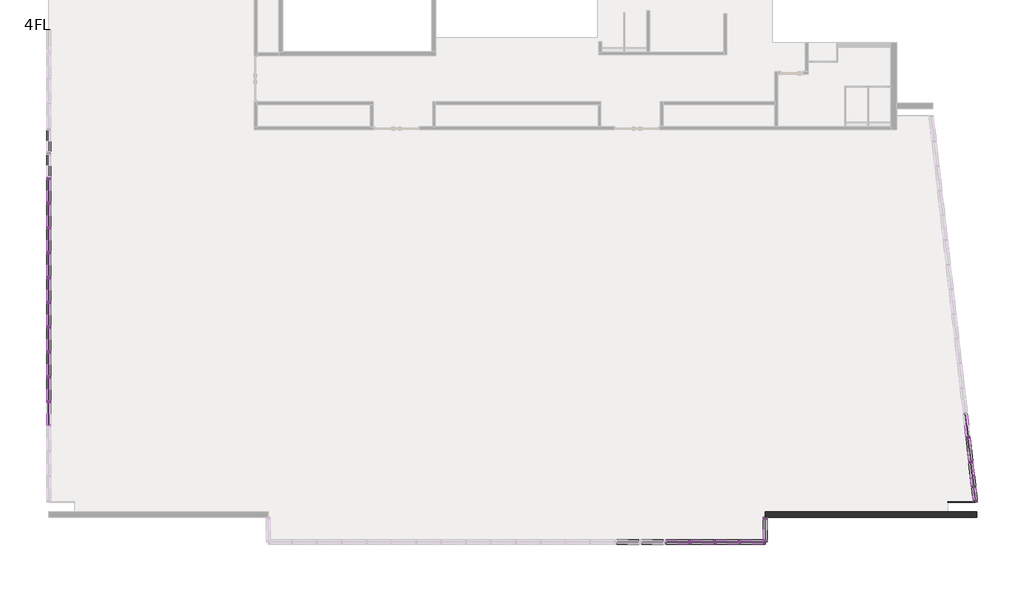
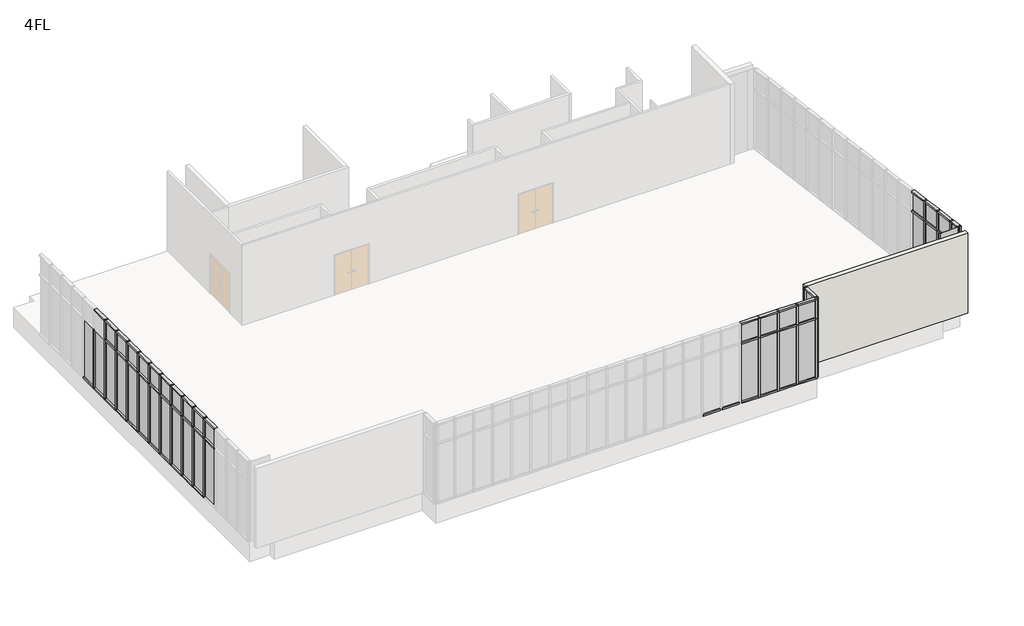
# One storey, part 2 of 4: 101 members, 42 plates, 1 wall.
"""IFC4 building model written with IfcOpenShell, lengths in millimetres."""

from ifc_helpers import new_model, si_unit, frame, origin, place, context, project, spatial, polyline, outline, extrude, transform, mapped, element, save
from components import member_70x150_cdd4dcf9, member_70x150_9a135ce4, member_70x150_66cf63de, member_70x150_26475b18, member_70x150_ad4265bc, member_70x150_e0eddb57, member_70x150_1b280ac3, member_70x150_76429c73, member_70x150_98b0aed0, member_70x150_87b27eb4, plate_d1366ea1, plate_5a60b334, plate_28587fd3, plate_4b01b467, plate_396bcf3c, plate_83f08a3e, plate_de90d239, plate_46ceffe4

model = new_model("IFC4")

# Units and contexts
model_context = context("Model", 3, world=origin())
ifc_project = project(units=[si_unit("LENGTHUNIT", "METRE", prefix="MILLI")], contexts=[model_context])

# Site, building, storey
site = spatial("IfcSite", under=ifc_project)
building = spatial("IfcBuilding", under=site)
storey = spatial("IfcBuildingStorey", under=building, Name="4FL", Elevation=12600.0)

# Members
placement = place(None, origin())
member_70x150_shape = member_70x150_cdd4dcf9(model_context)
element("IfcMember", 1, ObjectType="長方形のマリオン : 70x150", at=placement, inside=storey, context=model_context, shape_type="MappedRepresentation", body=[
    mapped(member_70x150_shape, transform((-5230.9784025, -4550.3131013, 12600.0), x_axis=(-1.0, 0.0, 0.0), y_axis=(0.0, 1.0, 0.0), z_axis=(0.0, 0.0, -1.0))),
])
element("IfcMember", 2, ObjectType="長方形のマリオン : 70x150", at=placement, inside=storey, context=model_context, shape_type="MappedRepresentation", body=[
    mapped(member_70x150_shape, transform((-4330.9784025, -4550.3131013, 12600.0), x_axis=(-1.0, 0.0, 0.0), y_axis=(0.0, 1.0, 0.0), z_axis=(0.0, 0.0, -1.0))),
])
element("IfcMember", 3, ObjectType="長方形のマリオン : 70x150", at=placement, inside=storey, context=model_context, shape_type="MappedRepresentation", body=[
    mapped(member_70x150_shape, transform((-6130.9784025, -4550.3131013, 12600.0), x_axis=(-1.0, 0.0, 0.0), y_axis=(0.0, 1.0, 0.0), z_axis=(0.0, 0.0, -1.0))),
])
element("IfcMember", 4, ObjectType="長方形のマリオン : 70x150", at=placement, inside=storey, context=model_context, shape_type="MappedRepresentation", body=[
    mapped(member_70x150_shape, transform((4147.3841348, -2547.7778257, 12600.0), x_axis=(0.11354659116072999, -0.9935326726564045, 0.0), y_axis=(-0.9935326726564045, -0.11354659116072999, 0.0), z_axis=(0.0, 0.0, -1.0))),
])
element("IfcMember", 5, ObjectType="長方形のマリオン : 70x150", at=placement, inside=storey, context=model_context, shape_type="MappedRepresentation", body=[
    mapped(member_70x150_shape, transform((4045.1922027, -1653.5984203, 12600.0), x_axis=(0.11354659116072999, -0.9935326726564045, 0.0), y_axis=(-0.9935326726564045, -0.11354659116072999, 0.0), z_axis=(0.0, 0.0, -1.0))),
])
element("IfcMember", 6, ObjectType="長方形のマリオン : 70x150", at=placement, inside=storey, context=model_context, shape_type="MappedRepresentation", body=[
    mapped(member_70x150_shape, transform((3943.0002707, -759.4190149, 12600.0), x_axis=(0.11354659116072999, -0.9935326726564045, 0.0), y_axis=(-0.9935326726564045, -0.11354659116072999, 0.0), z_axis=(0.0, 0.0, -1.0))),
])
element("IfcMember", 7, ObjectType="長方形のマリオン : 70x150", at=placement, inside=storey, context=model_context, shape_type="MappedRepresentation", body=[
    mapped(member_70x150_shape, transform((-29345.9784025, 9534.6868987, 12600.0), x_axis=(0.0, 1.0, 0.0), y_axis=(1.0, 0.0, 0.0), z_axis=(0.0, 0.0, -1.0))),
])
element("IfcMember", 8, ObjectType="長方形のマリオン : 70x150", at=placement, inside=storey, context=model_context, shape_type="MappedRepresentation", body=[
    mapped(member_70x150_shape, transform((-29345.9784025, 8634.6868987, 12600.0), x_axis=(0.0, 1.0, 0.0), y_axis=(1.0, 0.0, 0.0), z_axis=(0.0, 0.0, -1.0))),
])
element("IfcMember", 9, ObjectType="長方形のマリオン : 70x150", at=placement, inside=storey, context=model_context, shape_type="MappedRepresentation", body=[
    mapped(member_70x150_shape, transform((-29345.9784025, 7734.6868987, 12600.0), x_axis=(0.0, 1.0, 0.0), y_axis=(1.0, 0.0, 0.0), z_axis=(0.0, 0.0, -1.0))),
])
element("IfcMember", 10, ObjectType="長方形のマリオン : 70x150", at=placement, inside=storey, context=model_context, shape_type="MappedRepresentation", body=[
    mapped(member_70x150_shape, transform((-29345.9784025, 6834.6868987, 12600.0), x_axis=(0.0, 1.0, 0.0), y_axis=(1.0, 0.0, 0.0), z_axis=(0.0, 0.0, -1.0))),
])
element("IfcMember", 11, ObjectType="長方形のマリオン : 70x150", at=placement, inside=storey, context=model_context, shape_type="MappedRepresentation", body=[
    mapped(member_70x150_shape, transform((-29345.9784025, 5934.6868987, 12600.0), x_axis=(0.0, 1.0, 0.0), y_axis=(1.0, 0.0, 0.0), z_axis=(0.0, 0.0, -1.0))),
])
element("IfcMember", 12, ObjectType="長方形のマリオン : 70x150", at=placement, inside=storey, context=model_context, shape_type="MappedRepresentation", body=[
    mapped(member_70x150_shape, transform((-29345.9784025, 5034.6868987, 12600.0), x_axis=(0.0, 1.0, 0.0), y_axis=(1.0, 0.0, 0.0), z_axis=(0.0, 0.0, -1.0))),
])
element("IfcMember", 13, ObjectType="長方形のマリオン : 70x150", at=placement, inside=storey, context=model_context, shape_type="MappedRepresentation", body=[
    mapped(member_70x150_shape, transform((-29345.9784025, 4134.6868987, 12600.0), x_axis=(0.0, 1.0, 0.0), y_axis=(1.0, 0.0, 0.0), z_axis=(0.0, 0.0, -1.0))),
])
element("IfcMember", 14, ObjectType="長方形のマリオン : 70x150", at=placement, inside=storey, context=model_context, shape_type="MappedRepresentation", body=[
    mapped(member_70x150_shape, transform((-29345.9784025, 3234.6868987, 12600.0), x_axis=(0.0, 1.0, 0.0), y_axis=(1.0, 0.0, 0.0), z_axis=(0.0, 0.0, -1.0))),
])
element("IfcMember", 15, ObjectType="長方形のマリオン : 70x150", at=placement, inside=storey, context=model_context, shape_type="MappedRepresentation", body=[
    mapped(member_70x150_shape, transform((-29345.9784025, 2334.6868987, 12600.0), x_axis=(0.0, 1.0, 0.0), y_axis=(1.0, 0.0, 0.0), z_axis=(0.0, 0.0, -1.0))),
])
element("IfcMember", 16, ObjectType="長方形のマリオン : 70x150", at=placement, inside=storey, context=model_context, shape_type="MappedRepresentation", body=[
    mapped(member_70x150_shape, transform((-29345.9784025, 1434.6868987, 12600.0), x_axis=(0.0, 1.0, 0.0), y_axis=(1.0, 0.0, 0.0), z_axis=(0.0, 0.0, -1.0))),
])
element("IfcMember", 17, ObjectType="長方形のマリオン : 70x150", at=placement, inside=storey, context=model_context, shape_type="MappedRepresentation", body=[
    mapped(member_70x150_shape, transform((-29345.9784025, 534.6868987, 12600.0), x_axis=(0.0, 1.0, 0.0), y_axis=(1.0, 0.0, 0.0), z_axis=(0.0, 0.0, -1.0))),
])
member_70x150_2_shape = member_70x150_9a135ce4(model_context)
element("IfcMember", 18, ObjectType="長方形のマリオン : 70x150", at=placement, inside=storey, context=model_context, shape_type="MappedRepresentation", body=[
    mapped(member_70x150_2_shape, transform((-3395.9784025, -4480.3131013, 16600.0), x_axis=(0.0, 0.0, 1.0), y_axis=(-1.0, 0.0, 0.0), z_axis=(0.0, -1.0, 0.0))),
])
member_70x150_3_shape = member_70x150_66cf63de(model_context)
element("IfcMember", 19, ObjectType="長方形のマリオン : 70x150", at=placement, inside=storey, context=model_context, shape_type="MappedRepresentation", body=[
    mapped(member_70x150_3_shape, transform((-3465.9784025, -4550.3131013, 12600.0), x_axis=(0.0, 0.0, -1.0), y_axis=(0.0, 1.0, 0.0), z_axis=(1.0, 0.0, 0.0))),
])
element("IfcMember", 20, ObjectType="長方形のマリオン : 70x150", at=placement, inside=storey, context=model_context, shape_type="MappedRepresentation", body=[
    mapped(member_70x150_3_shape, transform((-7065.9784025, -4550.3131013, 12600.0), x_axis=(0.0, 0.0, -1.0), y_axis=(0.0, 1.0, 0.0), z_axis=(1.0, 0.0, 0.0))),
])
element("IfcMember", 21, ObjectType="長方形のマリオン : 70x150", at=placement, inside=storey, context=model_context, shape_type="MappedRepresentation", body=[
    mapped(member_70x150_3_shape, transform((-7965.9784025, -4550.3131013, 12600.0), x_axis=(0.0, 0.0, -1.0), y_axis=(0.0, 1.0, 0.0), z_axis=(1.0, 0.0, 0.0))),
])
element("IfcMember", 22, ObjectType="長方形のマリオン : 70x150", at=placement, inside=storey, context=model_context, shape_type="MappedRepresentation", body=[
    mapped(member_70x150_3_shape, transform((-4365.9784025, -4550.3131013, 12600.0), x_axis=(0.0, 0.0, -1.0), y_axis=(0.0, 1.0, 0.0), z_axis=(1.0, 0.0, 0.0))),
])
element("IfcMember", 23, ObjectType="長方形のマリオン : 70x150", at=placement, inside=storey, context=model_context, shape_type="MappedRepresentation", body=[
    mapped(member_70x150_3_shape, transform((-6165.9784025, -4550.3131013, 12600.0), x_axis=(0.0, 0.0, -1.0), y_axis=(0.0, 1.0, 0.0), z_axis=(1.0, 0.0, 0.0))),
])
element("IfcMember", 24, ObjectType="長方形のマリオン : 70x150", at=placement, inside=storey, context=model_context, shape_type="MappedRepresentation", body=[
    mapped(member_70x150_3_shape, transform((-5265.9784025, -4550.3131013, 12600.0), x_axis=(0.0, 0.0, -1.0), y_axis=(0.0, 1.0, 0.0), z_axis=(1.0, 0.0, 0.0))),
])
element("IfcMember", 25, ObjectType="長方形のマリオン : 70x150", at=placement, inside=storey, context=model_context, shape_type="MappedRepresentation", body=[
    mapped(member_70x150_3_shape, transform((4049.1663334, -1688.3720639, 12600.0), x_axis=(0.0, 0.0, -1.0), y_axis=(-0.9935326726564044, -0.11354659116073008, 0.0), z_axis=(-0.11354659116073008, 0.9935326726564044, 0.0))),
])
element("IfcMember", 26, ObjectType="長方形のマリオン : 70x150", at=placement, inside=storey, context=model_context, shape_type="MappedRepresentation", body=[
    mapped(member_70x150_3_shape, transform((3946.9744014, -794.1926585, 12600.0), x_axis=(0.0, 0.0, -1.0), y_axis=(-0.9935326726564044, -0.1135465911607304, 0.0), z_axis=(-0.11354659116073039, 0.9935326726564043, 0.0))),
])
element("IfcMember", 27, ObjectType="長方形のマリオン : 70x150", at=placement, inside=storey, context=model_context, shape_type="MappedRepresentation", body=[
    mapped(member_70x150_3_shape, transform((-29345.9784025, 9569.6868987, 12600.0), x_axis=(0.0, 0.0, -1.0), y_axis=(1.0, 0.0, 0.0), z_axis=(0.0, -1.0, 0.0))),
])
element("IfcMember", 28, ObjectType="長方形のマリオン : 70x150", at=placement, inside=storey, context=model_context, shape_type="MappedRepresentation", body=[
    mapped(member_70x150_3_shape, transform((-29345.9784025, 8669.6868987, 12600.0), x_axis=(0.0, 0.0, -1.0), y_axis=(1.0, 0.0, 0.0), z_axis=(0.0, -1.0, 0.0))),
])
element("IfcMember", 29, ObjectType="長方形のマリオン : 70x150", at=placement, inside=storey, context=model_context, shape_type="MappedRepresentation", body=[
    mapped(member_70x150_3_shape, transform((-29345.9784025, 7769.6868987, 12600.0), x_axis=(0.0, 0.0, -1.0), y_axis=(1.0, 0.0, 0.0), z_axis=(0.0, -1.0, 0.0))),
])
element("IfcMember", 30, ObjectType="長方形のマリオン : 70x150", at=placement, inside=storey, context=model_context, shape_type="MappedRepresentation", body=[
    mapped(member_70x150_3_shape, transform((-29345.9784025, 6869.6868987, 12600.0), x_axis=(0.0, 0.0, -1.0), y_axis=(1.0, 0.0, 0.0), z_axis=(0.0, -1.0, 0.0))),
])
element("IfcMember", 31, ObjectType="長方形のマリオン : 70x150", at=placement, inside=storey, context=model_context, shape_type="MappedRepresentation", body=[
    mapped(member_70x150_3_shape, transform((-29345.9784025, 5969.6868987, 12600.0), x_axis=(0.0, 0.0, -1.0), y_axis=(1.0, 0.0, 0.0), z_axis=(0.0, -1.0, 0.0))),
])
element("IfcMember", 32, ObjectType="長方形のマリオン : 70x150", at=placement, inside=storey, context=model_context, shape_type="MappedRepresentation", body=[
    mapped(member_70x150_3_shape, transform((-29345.9784025, 5069.6868987, 12600.0), x_axis=(0.0, 0.0, -1.0), y_axis=(1.0, 0.0, 0.0), z_axis=(0.0, -1.0, 0.0))),
])
element("IfcMember", 33, ObjectType="長方形のマリオン : 70x150", at=placement, inside=storey, context=model_context, shape_type="MappedRepresentation", body=[
    mapped(member_70x150_3_shape, transform((-29345.9784025, 4169.6868987, 12600.0), x_axis=(0.0, 0.0, -1.0), y_axis=(1.0, 0.0, 0.0), z_axis=(0.0, -1.0, 0.0))),
])
element("IfcMember", 34, ObjectType="長方形のマリオン : 70x150", at=placement, inside=storey, context=model_context, shape_type="MappedRepresentation", body=[
    mapped(member_70x150_3_shape, transform((-29345.9784025, 3269.6868987, 12600.0), x_axis=(0.0, 0.0, -1.0), y_axis=(1.0, 0.0, 0.0), z_axis=(0.0, -1.0, 0.0))),
])
element("IfcMember", 35, ObjectType="長方形のマリオン : 70x150", at=placement, inside=storey, context=model_context, shape_type="MappedRepresentation", body=[
    mapped(member_70x150_3_shape, transform((-29345.9784025, 2369.6868987, 12600.0), x_axis=(0.0, 0.0, -1.0), y_axis=(1.0, 0.0, 0.0), z_axis=(0.0, -1.0, 0.0))),
])
element("IfcMember", 36, ObjectType="長方形のマリオン : 70x150", at=placement, inside=storey, context=model_context, shape_type="MappedRepresentation", body=[
    mapped(member_70x150_3_shape, transform((-29345.9784025, 1469.6868987, 12600.0), x_axis=(0.0, 0.0, -1.0), y_axis=(1.0, 0.0, 0.0), z_axis=(0.0, -1.0, 0.0))),
])
element("IfcMember", 37, ObjectType="長方形のマリオン : 70x150", at=placement, inside=storey, context=model_context, shape_type="MappedRepresentation", body=[
    mapped(member_70x150_3_shape, transform((-29345.9784025, 569.6868987, 12600.0), x_axis=(0.0, 0.0, -1.0), y_axis=(1.0, 0.0, 0.0), z_axis=(0.0, -1.0, 0.0))),
])
element("IfcMember", 38, ObjectType="長方形のマリオン : 70x150", at=placement, inside=storey, context=model_context, shape_type="MappedRepresentation", body=[
    mapped(member_70x150_3_shape, transform((-6995.9784025, -4550.3131013, 16600.0), x_axis=(0.0, 0.0, 1.0), y_axis=(0.0, 1.0, 0.0), z_axis=(-1.0, 0.0, 0.0))),
])
element("IfcMember", 39, ObjectType="長方形のマリオン : 70x150", at=placement, inside=storey, context=model_context, shape_type="MappedRepresentation", body=[
    mapped(member_70x150_3_shape, transform((-6095.9784025, -4550.3131013, 16600.0), x_axis=(0.0, 0.0, 1.0), y_axis=(0.0, 1.0, 0.0), z_axis=(-1.0, 0.0, 0.0))),
])
element("IfcMember", 40, ObjectType="長方形のマリオン : 70x150", at=placement, inside=storey, context=model_context, shape_type="MappedRepresentation", body=[
    mapped(member_70x150_3_shape, transform((-5195.9784025, -4550.3131013, 16600.0), x_axis=(0.0, 0.0, 1.0), y_axis=(0.0, 1.0, 0.0), z_axis=(-1.0, 0.0, 0.0))),
])
element("IfcMember", 41, ObjectType="長方形のマリオン : 70x150", at=placement, inside=storey, context=model_context, shape_type="MappedRepresentation", body=[
    mapped(member_70x150_3_shape, transform((-4295.9784025, -4550.3131013, 16600.0), x_axis=(0.0, 0.0, 1.0), y_axis=(0.0, 1.0, 0.0), z_axis=(-1.0, 0.0, 0.0))),
])
element("IfcMember", 42, ObjectType="長方形のマリオン : 70x150", at=placement, inside=storey, context=model_context, shape_type="MappedRepresentation", body=[
    mapped(member_70x150_3_shape, transform((4143.4100041, -2513.0041822, 16600.0), x_axis=(0.0, 0.0, 1.0), y_axis=(-0.9935326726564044, -0.11354659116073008, 0.0), z_axis=(0.11354659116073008, -0.9935326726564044, 0.0))),
])
element("IfcMember", 43, ObjectType="長方形のマリオン : 70x150", at=placement, inside=storey, context=model_context, shape_type="MappedRepresentation", body=[
    mapped(member_70x150_3_shape, transform((4041.2180721, -1618.8247768, 16600.0), x_axis=(0.0, 0.0, 1.0), y_axis=(-0.9935326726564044, -0.1135465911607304, 0.0), z_axis=(0.11354659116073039, -0.9935326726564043, 0.0))),
])
element("IfcMember", 44, ObjectType="長方形のマリオン : 70x150", at=placement, inside=storey, context=model_context, shape_type="MappedRepresentation", body=[
    mapped(member_70x150_3_shape, transform((3939.02614, -724.6453714, 16600.0), x_axis=(0.0, 0.0, 1.0), y_axis=(-0.9935326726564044, -0.11354659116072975, 0.0), z_axis=(0.11354659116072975, -0.9935326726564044, 0.0))),
])
element("IfcMember", 45, ObjectType="長方形のマリオン : 70x150", at=placement, inside=storey, context=model_context, shape_type="MappedRepresentation", body=[
    mapped(member_70x150_3_shape, transform((-29345.9784025, 9499.6868987, 16600.0), x_axis=(0.0, 0.0, 1.0), y_axis=(1.0, 0.0, 0.0), z_axis=(0.0, 1.0, 0.0))),
])
element("IfcMember", 46, ObjectType="長方形のマリオン : 70x150", at=placement, inside=storey, context=model_context, shape_type="MappedRepresentation", body=[
    mapped(member_70x150_3_shape, transform((-29345.9784025, 8599.6868987, 16600.0), x_axis=(0.0, 0.0, 1.0), y_axis=(1.0, 0.0, 0.0), z_axis=(0.0, 1.0, 0.0))),
])
element("IfcMember", 47, ObjectType="長方形のマリオン : 70x150", at=placement, inside=storey, context=model_context, shape_type="MappedRepresentation", body=[
    mapped(member_70x150_3_shape, transform((-29345.9784025, 7699.6868987, 16600.0), x_axis=(0.0, 0.0, 1.0), y_axis=(1.0, 0.0, 0.0), z_axis=(0.0, 1.0, 0.0))),
])
element("IfcMember", 48, ObjectType="長方形のマリオン : 70x150", at=placement, inside=storey, context=model_context, shape_type="MappedRepresentation", body=[
    mapped(member_70x150_3_shape, transform((-29345.9784025, 6799.6868987, 16600.0), x_axis=(0.0, 0.0, 1.0), y_axis=(1.0, 0.0, 0.0), z_axis=(0.0, 1.0, 0.0))),
])
element("IfcMember", 49, ObjectType="長方形のマリオン : 70x150", at=placement, inside=storey, context=model_context, shape_type="MappedRepresentation", body=[
    mapped(member_70x150_3_shape, transform((-29345.9784025, 5899.6868987, 16600.0), x_axis=(0.0, 0.0, 1.0), y_axis=(1.0, 0.0, 0.0), z_axis=(0.0, 1.0, 0.0))),
])
element("IfcMember", 50, ObjectType="長方形のマリオン : 70x150", at=placement, inside=storey, context=model_context, shape_type="MappedRepresentation", body=[
    mapped(member_70x150_3_shape, transform((-29345.9784025, 4999.6868987, 16600.0), x_axis=(0.0, 0.0, 1.0), y_axis=(1.0, 0.0, 0.0), z_axis=(0.0, 1.0, 0.0))),
])
element("IfcMember", 51, ObjectType="長方形のマリオン : 70x150", at=placement, inside=storey, context=model_context, shape_type="MappedRepresentation", body=[
    mapped(member_70x150_3_shape, transform((-29345.9784025, 4099.6868987, 16600.0), x_axis=(0.0, 0.0, 1.0), y_axis=(1.0, 0.0, 0.0), z_axis=(0.0, 1.0, 0.0))),
])
element("IfcMember", 52, ObjectType="長方形のマリオン : 70x150", at=placement, inside=storey, context=model_context, shape_type="MappedRepresentation", body=[
    mapped(member_70x150_3_shape, transform((-29345.9784025, 3199.6868987, 16600.0), x_axis=(0.0, 0.0, 1.0), y_axis=(1.0, 0.0, 0.0), z_axis=(0.0, 1.0, 0.0))),
])
element("IfcMember", 53, ObjectType="長方形のマリオン : 70x150", at=placement, inside=storey, context=model_context, shape_type="MappedRepresentation", body=[
    mapped(member_70x150_3_shape, transform((-29345.9784025, 2299.6868987, 16600.0), x_axis=(0.0, 0.0, 1.0), y_axis=(1.0, 0.0, 0.0), z_axis=(0.0, 1.0, 0.0))),
])
element("IfcMember", 54, ObjectType="長方形のマリオン : 70x150", at=placement, inside=storey, context=model_context, shape_type="MappedRepresentation", body=[
    mapped(member_70x150_3_shape, transform((-29345.9784025, 1399.6868987, 16600.0), x_axis=(0.0, 0.0, 1.0), y_axis=(1.0, 0.0, 0.0), z_axis=(0.0, 1.0, 0.0))),
])
element("IfcMember", 55, ObjectType="長方形のマリオン : 70x150", at=placement, inside=storey, context=model_context, shape_type="MappedRepresentation", body=[
    mapped(member_70x150_3_shape, transform((-29345.9784025, 499.6868987, 16600.0), x_axis=(0.0, 0.0, 1.0), y_axis=(1.0, 0.0, 0.0), z_axis=(0.0, 1.0, 0.0))),
])
element("IfcMember", 56, ObjectType="長方形のマリオン : 70x150", at=placement, inside=storey, context=model_context, shape_type="MappedRepresentation", body=[
    mapped(member_70x150_2_shape, transform((-3395.9784025, -3720.3131013, 12600.0), x_axis=(0.0, 0.0, -1.0), y_axis=(-1.0, 0.0, 0.0), z_axis=(0.0, 1.0, 0.0))),
])
member_70x150_4_shape = member_70x150_26475b18(model_context)
element("IfcMember", 57, ObjectType="長方形のマリオン : 70x150", at=placement, inside=storey, context=model_context, shape_type="MappedRepresentation", body=[
    mapped(member_70x150_4_shape, transform((-6130.9784025, -4550.3131013, 15600.0), x_axis=(-1.0, 0.0, 0.0), y_axis=(0.0, 1.0, 0.0), z_axis=(0.0, 0.0, -1.0))),
])
element("IfcMember", 58, ObjectType="長方形のマリオン : 70x150", at=placement, inside=storey, context=model_context, shape_type="MappedRepresentation", body=[
    mapped(member_70x150_4_shape, transform((-5230.9784025, -4550.3131013, 15600.0), x_axis=(-1.0, 0.0, 0.0), y_axis=(0.0, 1.0, 0.0), z_axis=(0.0, 0.0, -1.0))),
])
element("IfcMember", 59, ObjectType="長方形のマリオン : 70x150", at=placement, inside=storey, context=model_context, shape_type="MappedRepresentation", body=[
    mapped(member_70x150_4_shape, transform((-4330.9784025, -4550.3131013, 15600.0), x_axis=(-1.0, 0.0, 0.0), y_axis=(0.0, 1.0, 0.0), z_axis=(0.0, 0.0, -1.0))),
])
element("IfcMember", 60, ObjectType="長方形のマリオン : 70x150", at=placement, inside=storey, context=model_context, shape_type="MappedRepresentation", body=[
    mapped(member_70x150_4_shape, transform((3943.0002707, -759.4190149, 15600.0), x_axis=(0.11354659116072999, -0.9935326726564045, 0.0), y_axis=(-0.9935326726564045, -0.11354659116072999, 0.0), z_axis=(0.0, 0.0, -1.0))),
])
element("IfcMember", 61, ObjectType="長方形のマリオン : 70x150", at=placement, inside=storey, context=model_context, shape_type="MappedRepresentation", body=[
    mapped(member_70x150_4_shape, transform((4045.1922027, -1653.5984203, 15600.0), x_axis=(0.11354659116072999, -0.9935326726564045, 0.0), y_axis=(-0.9935326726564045, -0.11354659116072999, 0.0), z_axis=(0.0, 0.0, -1.0))),
])
element("IfcMember", 62, ObjectType="長方形のマリオン : 70x150", at=placement, inside=storey, context=model_context, shape_type="MappedRepresentation", body=[
    mapped(member_70x150_4_shape, transform((4147.3841348, -2547.7778257, 15600.0), x_axis=(0.11354659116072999, -0.9935326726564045, 0.0), y_axis=(-0.9935326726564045, -0.11354659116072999, 0.0), z_axis=(0.0, 0.0, -1.0))),
])
element("IfcMember", 63, ObjectType="長方形のマリオン : 70x150", at=placement, inside=storey, context=model_context, shape_type="MappedRepresentation", body=[
    mapped(member_70x150_4_shape, transform((-29345.9784025, 8634.6868987, 15600.0), x_axis=(0.0, 1.0, 0.0), y_axis=(1.0, 0.0, 0.0), z_axis=(0.0, 0.0, -1.0))),
])
element("IfcMember", 64, ObjectType="長方形のマリオン : 70x150", at=placement, inside=storey, context=model_context, shape_type="MappedRepresentation", body=[
    mapped(member_70x150_4_shape, transform((-29345.9784025, 7734.6868987, 15600.0), x_axis=(0.0, 1.0, 0.0), y_axis=(1.0, 0.0, 0.0), z_axis=(0.0, 0.0, -1.0))),
])
element("IfcMember", 65, ObjectType="長方形のマリオン : 70x150", at=placement, inside=storey, context=model_context, shape_type="MappedRepresentation", body=[
    mapped(member_70x150_4_shape, transform((-29345.9784025, 6834.6868987, 15600.0), x_axis=(0.0, 1.0, 0.0), y_axis=(1.0, 0.0, 0.0), z_axis=(0.0, 0.0, -1.0))),
])
element("IfcMember", 66, ObjectType="長方形のマリオン : 70x150", at=placement, inside=storey, context=model_context, shape_type="MappedRepresentation", body=[
    mapped(member_70x150_4_shape, transform((-29345.9784025, 5934.6868987, 15600.0), x_axis=(0.0, 1.0, 0.0), y_axis=(1.0, 0.0, 0.0), z_axis=(0.0, 0.0, -1.0))),
])
element("IfcMember", 67, ObjectType="長方形のマリオン : 70x150", at=placement, inside=storey, context=model_context, shape_type="MappedRepresentation", body=[
    mapped(member_70x150_4_shape, transform((-29345.9784025, 5034.6868987, 15600.0), x_axis=(0.0, 1.0, 0.0), y_axis=(1.0, 0.0, 0.0), z_axis=(0.0, 0.0, -1.0))),
])
element("IfcMember", 68, ObjectType="長方形のマリオン : 70x150", at=placement, inside=storey, context=model_context, shape_type="MappedRepresentation", body=[
    mapped(member_70x150_4_shape, transform((-29345.9784025, 4134.6868987, 15600.0), x_axis=(0.0, 1.0, 0.0), y_axis=(1.0, 0.0, 0.0), z_axis=(0.0, 0.0, -1.0))),
])
element("IfcMember", 69, ObjectType="長方形のマリオン : 70x150", at=placement, inside=storey, context=model_context, shape_type="MappedRepresentation", body=[
    mapped(member_70x150_4_shape, transform((-29345.9784025, 3234.6868987, 15600.0), x_axis=(0.0, 1.0, 0.0), y_axis=(1.0, 0.0, 0.0), z_axis=(0.0, 0.0, -1.0))),
])
element("IfcMember", 70, ObjectType="長方形のマリオン : 70x150", at=placement, inside=storey, context=model_context, shape_type="MappedRepresentation", body=[
    mapped(member_70x150_4_shape, transform((-29345.9784025, 2334.6868987, 15600.0), x_axis=(0.0, 1.0, 0.0), y_axis=(1.0, 0.0, 0.0), z_axis=(0.0, 0.0, -1.0))),
])
element("IfcMember", 71, ObjectType="長方形のマリオン : 70x150", at=placement, inside=storey, context=model_context, shape_type="MappedRepresentation", body=[
    mapped(member_70x150_4_shape, transform((-29345.9784025, 1434.6868987, 15600.0), x_axis=(0.0, 1.0, 0.0), y_axis=(1.0, 0.0, 0.0), z_axis=(0.0, 0.0, -1.0))),
])
element("IfcMember", 72, ObjectType="長方形のマリオン : 70x150", at=placement, inside=storey, context=model_context, shape_type="MappedRepresentation", body=[
    mapped(member_70x150_4_shape, transform((-29345.9784025, 534.6868987, 15600.0), x_axis=(0.0, 1.0, 0.0), y_axis=(1.0, 0.0, 0.0), z_axis=(0.0, 0.0, -1.0))),
])
member_70x150_5_shape = member_70x150_ad4265bc(model_context)
element("IfcMember", 73, ObjectType="長方形のマリオン : 70x150", at=placement, inside=storey, context=model_context, shape_type="MappedRepresentation", body=[
    mapped(member_70x150_5_shape, transform((-5195.9784025, -4550.3131013, 15600.0), x_axis=(0.0, 0.0, 1.0), y_axis=(0.0, 1.0, 0.0), z_axis=(-1.0, 0.0, 0.0))),
])
element("IfcMember", 74, ObjectType="長方形のマリオン : 70x150", at=placement, inside=storey, context=model_context, shape_type="MappedRepresentation", body=[
    mapped(member_70x150_5_shape, transform((-6995.9784025, -4550.3131013, 15600.0), x_axis=(0.0, 0.0, 1.0), y_axis=(0.0, 1.0, 0.0), z_axis=(-1.0, 0.0, 0.0))),
])
element("IfcMember", 75, ObjectType="長方形のマリオン : 70x150", at=placement, inside=storey, context=model_context, shape_type="MappedRepresentation", body=[
    mapped(member_70x150_5_shape, transform((-6095.9784025, -4550.3131013, 15600.0), x_axis=(0.0, 0.0, 1.0), y_axis=(0.0, 1.0, 0.0), z_axis=(-1.0, 0.0, 0.0))),
])
element("IfcMember", 76, ObjectType="長方形のマリオン : 70x150", at=placement, inside=storey, context=model_context, shape_type="MappedRepresentation", body=[
    mapped(member_70x150_5_shape, transform((-4295.9784025, -4550.3131013, 15600.0), x_axis=(0.0, 0.0, 1.0), y_axis=(0.0, 1.0, 0.0), z_axis=(-1.0, 0.0, 0.0))),
])
element("IfcMember", 77, ObjectType="長方形のマリオン : 70x150", at=placement, inside=storey, context=model_context, shape_type="MappedRepresentation", body=[
    mapped(member_70x150_5_shape, transform((4143.4100041, -2513.0041822, 15600.0), x_axis=(0.0, 0.0, 1.0), y_axis=(-0.9935326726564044, -0.11354659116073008, 0.0), z_axis=(0.11354659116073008, -0.9935326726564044, 0.0))),
])
element("IfcMember", 78, ObjectType="長方形のマリオン : 70x150", at=placement, inside=storey, context=model_context, shape_type="MappedRepresentation", body=[
    mapped(member_70x150_5_shape, transform((4041.2180721, -1618.8247768, 15600.0), x_axis=(0.0, 0.0, 1.0), y_axis=(-0.9935326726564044, -0.1135465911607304, 0.0), z_axis=(0.11354659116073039, -0.9935326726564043, 0.0))),
])
element("IfcMember", 79, ObjectType="長方形のマリオン : 70x150", at=placement, inside=storey, context=model_context, shape_type="MappedRepresentation", body=[
    mapped(member_70x150_5_shape, transform((3939.02614, -724.6453714, 15600.0), x_axis=(0.0, 0.0, 1.0), y_axis=(-0.9935326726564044, -0.11354659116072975, 0.0), z_axis=(0.11354659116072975, -0.9935326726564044, 0.0))),
])
element("IfcMember", 80, ObjectType="長方形のマリオン : 70x150", at=placement, inside=storey, context=model_context, shape_type="MappedRepresentation", body=[
    mapped(member_70x150_5_shape, transform((-29345.9784025, 2299.6868987, 15600.0), x_axis=(0.0, 0.0, 1.0), y_axis=(1.0, 0.0, 0.0), z_axis=(0.0, 1.0, 0.0))),
])
element("IfcMember", 81, ObjectType="長方形のマリオン : 70x150", at=placement, inside=storey, context=model_context, shape_type="MappedRepresentation", body=[
    mapped(member_70x150_5_shape, transform((-29345.9784025, 499.6868987, 15600.0), x_axis=(0.0, 0.0, 1.0), y_axis=(1.0, 0.0, 0.0), z_axis=(0.0, 1.0, 0.0))),
])
element("IfcMember", 82, ObjectType="長方形のマリオン : 70x150", at=placement, inside=storey, context=model_context, shape_type="MappedRepresentation", body=[
    mapped(member_70x150_5_shape, transform((-29345.9784025, 3199.6868987, 15600.0), x_axis=(0.0, 0.0, 1.0), y_axis=(1.0, 0.0, 0.0), z_axis=(0.0, 1.0, 0.0))),
])
element("IfcMember", 83, ObjectType="長方形のマリオン : 70x150", at=placement, inside=storey, context=model_context, shape_type="MappedRepresentation", body=[
    mapped(member_70x150_5_shape, transform((-29345.9784025, 5899.6868987, 15600.0), x_axis=(0.0, 0.0, 1.0), y_axis=(1.0, 0.0, 0.0), z_axis=(0.0, 1.0, 0.0))),
])
element("IfcMember", 84, ObjectType="長方形のマリオン : 70x150", at=placement, inside=storey, context=model_context, shape_type="MappedRepresentation", body=[
    mapped(member_70x150_5_shape, transform((-29345.9784025, 7699.6868987, 15600.0), x_axis=(0.0, 0.0, 1.0), y_axis=(1.0, 0.0, 0.0), z_axis=(0.0, 1.0, 0.0))),
])
element("IfcMember", 85, ObjectType="長方形のマリオン : 70x150", at=placement, inside=storey, context=model_context, shape_type="MappedRepresentation", body=[
    mapped(member_70x150_5_shape, transform((-29345.9784025, 4099.6868987, 15600.0), x_axis=(0.0, 0.0, 1.0), y_axis=(1.0, 0.0, 0.0), z_axis=(0.0, 1.0, 0.0))),
])
element("IfcMember", 86, ObjectType="長方形のマリオン : 70x150", at=placement, inside=storey, context=model_context, shape_type="MappedRepresentation", body=[
    mapped(member_70x150_5_shape, transform((-29345.9784025, 1399.6868987, 15600.0), x_axis=(0.0, 0.0, 1.0), y_axis=(1.0, 0.0, 0.0), z_axis=(0.0, 1.0, 0.0))),
])
element("IfcMember", 87, ObjectType="長方形のマリオン : 70x150", at=placement, inside=storey, context=model_context, shape_type="MappedRepresentation", body=[
    mapped(member_70x150_5_shape, transform((-29345.9784025, 8599.6868987, 15600.0), x_axis=(0.0, 0.0, 1.0), y_axis=(1.0, 0.0, 0.0), z_axis=(0.0, 1.0, 0.0))),
])
element("IfcMember", 88, ObjectType="長方形のマリオン : 70x150", at=placement, inside=storey, context=model_context, shape_type="MappedRepresentation", body=[
    mapped(member_70x150_5_shape, transform((-29345.9784025, 4999.6868987, 15600.0), x_axis=(0.0, 0.0, 1.0), y_axis=(1.0, 0.0, 0.0), z_axis=(0.0, 1.0, 0.0))),
])
element("IfcMember", 89, ObjectType="長方形のマリオン : 70x150", at=placement, inside=storey, context=model_context, shape_type="MappedRepresentation", body=[
    mapped(member_70x150_5_shape, transform((-29345.9784025, 6799.6868987, 15600.0), x_axis=(0.0, 0.0, 1.0), y_axis=(1.0, 0.0, 0.0), z_axis=(0.0, 1.0, 0.0))),
])
member_70x150_6_shape = member_70x150_e0eddb57(model_context)
element("IfcMember", 90, ObjectType="長方形のマリオン : 70x150", at=placement, inside=storey, context=model_context, shape_type="MappedRepresentation", body=[
    mapped(member_70x150_6_shape, transform((-3395.9784025, -4480.3131013, 15600.0), x_axis=(0.0, 0.0, 1.0), y_axis=(-1.0, 0.0, 0.0), z_axis=(0.0, -1.0, 0.0))),
])
member_70x150_7_shape = member_70x150_1b280ac3(model_context)
element("IfcMember", 91, ObjectType="長方形のマリオン : 70x150", at=placement, inside=storey, context=model_context, shape_type="MappedRepresentation", body=[
    mapped(member_70x150_7_shape, transform((4210.5310234, -3100.3131013, 12600.0), x_axis=(0.11354659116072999, -0.9935326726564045, 0.0), y_axis=(-0.9935326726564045, -0.11354659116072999, 0.0), z_axis=(0.0, 0.0, -1.0))),
])
element("IfcMember", 92, ObjectType="長方形のマリオン : 70x150", at=placement, inside=storey, context=model_context, shape_type="MappedRepresentation", body=[
    mapped(member_70x150_7_shape, transform((-3395.9784025, -4550.3131013, 12600.0), x_axis=(0.0, -1.0, 0.0), y_axis=(-1.0, 0.0, 0.0), z_axis=(0.0, 0.0, -1.0))),
])
member_70x150_8_shape = member_70x150_76429c73(model_context)
element("IfcMember", 93, ObjectType="長方形のマリオン : 70x150", at=placement, inside=storey, context=model_context, shape_type="MappedRepresentation", body=[
    mapped(member_70x150_8_shape, transform((-3395.9784025, -4550.3131013, 16600.0), x_axis=(1.0, 0.0, 0.0), y_axis=(0.0, 1.0, 0.0), z_axis=(0.0, 0.0, 1.0))),
])
element("IfcMember", 94, ObjectType="長方形のマリオン : 70x150", at=placement, inside=storey, context=model_context, shape_type="MappedRepresentation", body=[
    mapped(member_70x150_8_shape, transform((-3395.9784025, -3650.3131013, 16600.0), x_axis=(0.0, 1.0, 0.0), y_axis=(-1.0, 0.0, 0.0), z_axis=(0.0, 0.0, 1.0))),
])
element("IfcMember", 95, ObjectType="長方形のマリオン : 70x150", at=placement, inside=storey, context=model_context, shape_type="MappedRepresentation", body=[
    mapped(member_70x150_8_shape, transform((4210.5310234, -3100.3131013, 15600.0), x_axis=(0.11354659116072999, -0.9935326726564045, 0.0), y_axis=(-0.9935326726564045, -0.11354659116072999, 0.0), z_axis=(0.0, 0.0, -1.0))),
])
element("IfcMember", 96, ObjectType="長方形のマリオン : 70x150", at=placement, inside=storey, context=model_context, shape_type="MappedRepresentation", body=[
    mapped(member_70x150_8_shape, transform((-3395.9784025, -4550.3131013, 15600.0), x_axis=(0.0, -1.0, 0.0), y_axis=(-1.0, 0.0, 0.0), z_axis=(0.0, 0.0, -1.0))),
])
element("IfcMember", 97, ObjectType="長方形のマリオン : 70x150", at=placement, inside=storey, context=model_context, shape_type="MappedRepresentation", body=[
    mapped(member_70x150_7_shape, transform((-3395.9784025, -4550.3131013, 15600.0), x_axis=(1.0, 0.0, 0.0), y_axis=(0.0, 1.0, 0.0), z_axis=(0.0, 0.0, 1.0))),
])
element("IfcMember", 98, ObjectType="長方形のマリオン : 70x150", at=placement, inside=storey, context=model_context, shape_type="MappedRepresentation", body=[
    mapped(member_70x150_7_shape, transform((-3395.9784025, -3650.3131013, 15600.0), x_axis=(0.0, 1.0, 0.0), y_axis=(-1.0, 0.0, 0.0), z_axis=(0.0, 0.0, 1.0))),
])
member_70x150_9_shape = member_70x150_98b0aed0(model_context)
element("IfcMember", 99, ObjectType="長方形のマリオン : 70x150", at=placement, inside=storey, context=model_context, shape_type="MappedRepresentation", body=[
    mapped(member_70x150_9_shape, transform((4202.582762, -3030.7658142, 16600.0), x_axis=(0.0, 0.0, 1.0), y_axis=(-0.9935326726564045, -0.11354659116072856, 0.0), z_axis=(0.11354659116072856, -0.9935326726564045, 0.0))),
])
element("IfcMember", 100, ObjectType="長方形のマリオン : 70x150", at=placement, inside=storey, context=model_context, shape_type="MappedRepresentation", body=[
    mapped(member_70x150_9_shape, transform((4151.3582655, -2582.5514692, 12600.0), x_axis=(0.0, 0.0, -1.0), y_axis=(-0.9935326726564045, -0.11354659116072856, 0.0), z_axis=(-0.11354659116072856, 0.9935326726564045, 0.0))),
])
member_70x150_10_shape = member_70x150_87b27eb4(model_context)
element("IfcMember", 101, ObjectType="長方形のマリオン : 70x150", at=placement, inside=storey, context=model_context, shape_type="MappedRepresentation", body=[
    mapped(member_70x150_10_shape, transform((4202.582762, -3030.7658142, 15600.0), x_axis=(0.0, 0.0, 1.0), y_axis=(-0.9935326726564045, -0.11354659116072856, 0.0), z_axis=(0.11354659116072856, -0.9935326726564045, 0.0))),
])

# Plates
plate_shape = plate_d1366ea1(model_context)
element("IfcPlate", 102, ObjectType="システム パネル : 標準", at=placement, inside=storey, context=model_context, shape_type="MappedRepresentation", body=[
    mapped(plate_shape, transform((3760.5310234, -3100.3131013, 12600.0), x_axis=(-1.0, 0.0, 0.0), y_axis=(0.0, -1.0, 0.0), z_axis=(0.0, 0.0, 1.0))),
])
plate_2_shape = plate_5a60b334(model_context)
element("IfcPlate", 103, ObjectType="システム パネル : 標準", at=placement, inside=storey, context=model_context, shape_type="MappedRepresentation", body=[
    mapped(plate_2_shape, transform((3257.2763105, -3100.3131013, 12600.0), x_axis=(-1.0, 0.0, 0.0), y_axis=(0.0, -1.0, 0.0), z_axis=(0.0, 0.0, 1.0))),
])
plate_3_shape = plate_28587fd3(model_context)
element("IfcPlate", 104, ObjectType="システム パネル : 標準", at=placement, inside=storey, context=model_context, shape_type="MappedRepresentation", body=[
    mapped(plate_3_shape, transform((3891.9043047, -312.3293122, 12670.0), x_axis=(0.11354659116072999, -0.9935326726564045, 0.0), y_axis=(0.9935326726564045, 0.11354659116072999, 0.0), z_axis=(0.0, 0.0, 1.0))),
])
element("IfcPlate", 105, ObjectType="システム パネル : 標準", at=placement, inside=storey, context=model_context, shape_type="MappedRepresentation", body=[
    mapped(plate_3_shape, transform((3994.0962367, -1206.5087176, 12670.0), x_axis=(0.11354659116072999, -0.9935326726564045, 0.0), y_axis=(0.9935326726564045, 0.11354659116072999, 0.0), z_axis=(0.0, 0.0, 1.0))),
])
element("IfcPlate", 106, ObjectType="システム パネル : 標準", at=placement, inside=storey, context=model_context, shape_type="MappedRepresentation", body=[
    mapped(plate_3_shape, transform((4096.2881688, -2100.688123, 12670.0), x_axis=(0.11354659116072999, -0.9935326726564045, 0.0), y_axis=(0.9935326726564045, 0.11354659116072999, 0.0), z_axis=(0.0, 0.0, 1.0))),
])
element("IfcPlate", 107, ObjectType="システム パネル : 標準", at=placement, inside=storey, context=model_context, shape_type="MappedRepresentation", body=[
    mapped(plate_3_shape, transform((-29345.9784025, 84.6868987, 12670.0), x_axis=(0.0, 1.0, 0.0), y_axis=(-1.0, 0.0, 0.0), z_axis=(0.0, 0.0, 1.0))),
])
element("IfcPlate", 108, ObjectType="システム パネル : 標準", at=placement, inside=storey, context=model_context, shape_type="MappedRepresentation", body=[
    mapped(plate_3_shape, transform((-29345.9784025, 984.6868987, 12670.0), x_axis=(0.0, 1.0, 0.0), y_axis=(-1.0, 0.0, 0.0), z_axis=(0.0, 0.0, 1.0))),
])
element("IfcPlate", 109, ObjectType="システム パネル : 標準", at=placement, inside=storey, context=model_context, shape_type="MappedRepresentation", body=[
    mapped(plate_3_shape, transform((-29345.9784025, 1884.6868987, 12670.0), x_axis=(0.0, 1.0, 0.0), y_axis=(-1.0, 0.0, 0.0), z_axis=(0.0, 0.0, 1.0))),
])
element("IfcPlate", 110, ObjectType="システム パネル : 標準", at=placement, inside=storey, context=model_context, shape_type="MappedRepresentation", body=[
    mapped(plate_3_shape, transform((-29345.9784025, 2784.6868987, 12670.0), x_axis=(0.0, 1.0, 0.0), y_axis=(-1.0, 0.0, 0.0), z_axis=(0.0, 0.0, 1.0))),
])
element("IfcPlate", 111, ObjectType="システム パネル : 標準", at=placement, inside=storey, context=model_context, shape_type="MappedRepresentation", body=[
    mapped(plate_3_shape, transform((-29345.9784025, 3684.6868987, 12670.0), x_axis=(0.0, 1.0, 0.0), y_axis=(-1.0, 0.0, 0.0), z_axis=(0.0, 0.0, 1.0))),
])
element("IfcPlate", 112, ObjectType="システム パネル : 標準", at=placement, inside=storey, context=model_context, shape_type="MappedRepresentation", body=[
    mapped(plate_3_shape, transform((-29345.9784025, 4584.6868987, 12670.0), x_axis=(0.0, 1.0, 0.0), y_axis=(-1.0, 0.0, 0.0), z_axis=(0.0, 0.0, 1.0))),
])
element("IfcPlate", 113, ObjectType="システム パネル : 標準", at=placement, inside=storey, context=model_context, shape_type="MappedRepresentation", body=[
    mapped(plate_3_shape, transform((-29345.9784025, 5484.6868987, 12670.0), x_axis=(0.0, 1.0, 0.0), y_axis=(-1.0, 0.0, 0.0), z_axis=(0.0, 0.0, 1.0))),
])
element("IfcPlate", 114, ObjectType="システム パネル : 標準", at=placement, inside=storey, context=model_context, shape_type="MappedRepresentation", body=[
    mapped(plate_3_shape, transform((-29345.9784025, 6384.6868987, 12670.0), x_axis=(0.0, 1.0, 0.0), y_axis=(-1.0, 0.0, 0.0), z_axis=(0.0, 0.0, 1.0))),
])
element("IfcPlate", 115, ObjectType="システム パネル : 標準", at=placement, inside=storey, context=model_context, shape_type="MappedRepresentation", body=[
    mapped(plate_3_shape, transform((-29345.9784025, 7284.6868987, 12670.0), x_axis=(0.0, 1.0, 0.0), y_axis=(-1.0, 0.0, 0.0), z_axis=(0.0, 0.0, 1.0))),
])
element("IfcPlate", 116, ObjectType="システム パネル : 標準", at=placement, inside=storey, context=model_context, shape_type="MappedRepresentation", body=[
    mapped(plate_3_shape, transform((-29345.9784025, 8184.6868987, 12670.0), x_axis=(0.0, 1.0, 0.0), y_axis=(-1.0, 0.0, 0.0), z_axis=(0.0, 0.0, 1.0))),
])
element("IfcPlate", 117, ObjectType="システム パネル : 標準", at=placement, inside=storey, context=model_context, shape_type="MappedRepresentation", body=[
    mapped(plate_3_shape, transform((-29345.9784025, 9084.6868987, 12670.0), x_axis=(0.0, 1.0, 0.0), y_axis=(-1.0, 0.0, 0.0), z_axis=(0.0, 0.0, 1.0))),
])
element("IfcPlate", 118, ObjectType="システム パネル : 標準", at=placement, inside=storey, context=model_context, shape_type="MappedRepresentation", body=[
    mapped(plate_3_shape, transform((-29345.9784025, 9984.6868987, 12670.0), x_axis=(0.0, 1.0, 0.0), y_axis=(-1.0, 0.0, 0.0), z_axis=(0.0, 0.0, 1.0))),
])
element("IfcPlate", 119, ObjectType="システム パネル : 標準", at=placement, inside=storey, context=model_context, shape_type="MappedRepresentation", body=[
    mapped(plate_3_shape, transform((-3880.9784025, -4550.3131013, 12670.0), x_axis=(-1.0, 0.0, 0.0), y_axis=(0.0, -1.0, 0.0), z_axis=(0.0, 0.0, 1.0))),
])
element("IfcPlate", 120, ObjectType="システム パネル : 標準", at=placement, inside=storey, context=model_context, shape_type="MappedRepresentation", body=[
    mapped(plate_3_shape, transform((-4780.9784025, -4550.3131013, 12670.0), x_axis=(-1.0, 0.0, 0.0), y_axis=(0.0, -1.0, 0.0), z_axis=(0.0, 0.0, 1.0))),
])
element("IfcPlate", 121, ObjectType="システム パネル : 標準", at=placement, inside=storey, context=model_context, shape_type="MappedRepresentation", body=[
    mapped(plate_3_shape, transform((-5680.9784025, -4550.3131013, 12670.0), x_axis=(-1.0, 0.0, 0.0), y_axis=(0.0, -1.0, 0.0), z_axis=(0.0, 0.0, 1.0))),
])
element("IfcPlate", 122, ObjectType="システム パネル : 標準", at=placement, inside=storey, context=model_context, shape_type="MappedRepresentation", body=[
    mapped(plate_3_shape, transform((-6580.9784025, -4550.3131013, 12670.0), x_axis=(-1.0, 0.0, 0.0), y_axis=(0.0, -1.0, 0.0), z_axis=(0.0, 0.0, 1.0))),
])
plate_4_shape = plate_4b01b467(model_context)
element("IfcPlate", 123, ObjectType="システム パネル : 標準", at=placement, inside=storey, context=model_context, shape_type="MappedRepresentation", body=[
    mapped(plate_4_shape, transform((-3395.9784025, -4100.3131013, 12670.0), x_axis=(0.0, -1.0, 0.0), y_axis=(1.0, 0.0, 0.0), z_axis=(0.0, 0.0, 1.0))),
])
plate_5_shape = plate_396bcf3c(model_context)
element("IfcPlate", 124, ObjectType="システム パネル : 標準", at=placement, inside=storey, context=model_context, shape_type="MappedRepresentation", body=[
    mapped(plate_5_shape, transform((-3880.9784025, -4550.3131013, 15635.0), x_axis=(-1.0, 0.0, 0.0), y_axis=(0.0, -1.0, 0.0), z_axis=(0.0, 0.0, 1.0))),
])
element("IfcPlate", 125, ObjectType="システム パネル : 標準", at=placement, inside=storey, context=model_context, shape_type="MappedRepresentation", body=[
    mapped(plate_5_shape, transform((-4780.9784025, -4550.3131013, 15635.0), x_axis=(-1.0, 0.0, 0.0), y_axis=(0.0, -1.0, 0.0), z_axis=(0.0, 0.0, 1.0))),
])
element("IfcPlate", 126, ObjectType="システム パネル : 標準", at=placement, inside=storey, context=model_context, shape_type="MappedRepresentation", body=[
    mapped(plate_5_shape, transform((-5680.9784025, -4550.3131013, 15635.0), x_axis=(-1.0, 0.0, 0.0), y_axis=(0.0, -1.0, 0.0), z_axis=(0.0, 0.0, 1.0))),
])
element("IfcPlate", 127, ObjectType="システム パネル : 標準", at=placement, inside=storey, context=model_context, shape_type="MappedRepresentation", body=[
    mapped(plate_5_shape, transform((-6580.9784025, -4550.3131013, 15635.0), x_axis=(-1.0, 0.0, 0.0), y_axis=(0.0, -1.0, 0.0), z_axis=(0.0, 0.0, 1.0))),
])
element("IfcPlate", 128, ObjectType="システム パネル : 標準", at=placement, inside=storey, context=model_context, shape_type="MappedRepresentation", body=[
    mapped(plate_5_shape, transform((3891.9043047, -312.3293122, 15635.0), x_axis=(0.11354659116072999, -0.9935326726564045, 0.0), y_axis=(0.9935326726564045, 0.11354659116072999, 0.0), z_axis=(0.0, 0.0, 1.0))),
])
element("IfcPlate", 129, ObjectType="システム パネル : 標準", at=placement, inside=storey, context=model_context, shape_type="MappedRepresentation", body=[
    mapped(plate_5_shape, transform((3994.0962367, -1206.5087176, 15635.0), x_axis=(0.11354659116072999, -0.9935326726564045, 0.0), y_axis=(0.9935326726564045, 0.11354659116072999, 0.0), z_axis=(0.0, 0.0, 1.0))),
])
element("IfcPlate", 130, ObjectType="システム パネル : 標準", at=placement, inside=storey, context=model_context, shape_type="MappedRepresentation", body=[
    mapped(plate_5_shape, transform((4096.2881688, -2100.688123, 15635.0), x_axis=(0.11354659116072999, -0.9935326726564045, 0.0), y_axis=(0.9935326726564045, 0.11354659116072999, 0.0), z_axis=(0.0, 0.0, 1.0))),
])
element("IfcPlate", 131, ObjectType="システム パネル : 標準", at=placement, inside=storey, context=model_context, shape_type="MappedRepresentation", body=[
    mapped(plate_5_shape, transform((-29345.9784025, 84.6868987, 15635.0), x_axis=(0.0, 1.0, 0.0), y_axis=(-1.0, 0.0, 0.0), z_axis=(0.0, 0.0, 1.0))),
])
element("IfcPlate", 132, ObjectType="システム パネル : 標準", at=placement, inside=storey, context=model_context, shape_type="MappedRepresentation", body=[
    mapped(plate_5_shape, transform((-29345.9784025, 984.6868987, 15635.0), x_axis=(0.0, 1.0, 0.0), y_axis=(-1.0, 0.0, 0.0), z_axis=(0.0, 0.0, 1.0))),
])
element("IfcPlate", 133, ObjectType="システム パネル : 標準", at=placement, inside=storey, context=model_context, shape_type="MappedRepresentation", body=[
    mapped(plate_5_shape, transform((-29345.9784025, 1884.6868987, 15635.0), x_axis=(0.0, 1.0, 0.0), y_axis=(-1.0, 0.0, 0.0), z_axis=(0.0, 0.0, 1.0))),
])
element("IfcPlate", 134, ObjectType="システム パネル : 標準", at=placement, inside=storey, context=model_context, shape_type="MappedRepresentation", body=[
    mapped(plate_5_shape, transform((-29345.9784025, 2784.6868987, 15635.0), x_axis=(0.0, 1.0, 0.0), y_axis=(-1.0, 0.0, 0.0), z_axis=(0.0, 0.0, 1.0))),
])
element("IfcPlate", 135, ObjectType="システム パネル : 標準", at=placement, inside=storey, context=model_context, shape_type="MappedRepresentation", body=[
    mapped(plate_5_shape, transform((-29345.9784025, 3684.6868987, 15635.0), x_axis=(0.0, 1.0, 0.0), y_axis=(-1.0, 0.0, 0.0), z_axis=(0.0, 0.0, 1.0))),
])
element("IfcPlate", 136, ObjectType="システム パネル : 標準", at=placement, inside=storey, context=model_context, shape_type="MappedRepresentation", body=[
    mapped(plate_5_shape, transform((-29345.9784025, 4584.6868987, 15635.0), x_axis=(0.0, 1.0, 0.0), y_axis=(-1.0, 0.0, 0.0), z_axis=(0.0, 0.0, 1.0))),
])
element("IfcPlate", 137, ObjectType="システム パネル : 標準", at=placement, inside=storey, context=model_context, shape_type="MappedRepresentation", body=[
    mapped(plate_5_shape, transform((-29345.9784025, 5484.6868987, 15635.0), x_axis=(0.0, 1.0, 0.0), y_axis=(-1.0, 0.0, 0.0), z_axis=(0.0, 0.0, 1.0))),
])
element("IfcPlate", 138, ObjectType="システム パネル : 標準", at=placement, inside=storey, context=model_context, shape_type="MappedRepresentation", body=[
    mapped(plate_5_shape, transform((-29345.9784025, 6384.6868987, 15635.0), x_axis=(0.0, 1.0, 0.0), y_axis=(-1.0, 0.0, 0.0), z_axis=(0.0, 0.0, 1.0))),
])
element("IfcPlate", 139, ObjectType="システム パネル : 標準", at=placement, inside=storey, context=model_context, shape_type="MappedRepresentation", body=[
    mapped(plate_5_shape, transform((-29345.9784025, 7284.6868987, 15635.0), x_axis=(0.0, 1.0, 0.0), y_axis=(-1.0, 0.0, 0.0), z_axis=(0.0, 0.0, 1.0))),
])
element("IfcPlate", 140, ObjectType="システム パネル : 標準", at=placement, inside=storey, context=model_context, shape_type="MappedRepresentation", body=[
    mapped(plate_5_shape, transform((-29345.9784025, 8184.6868987, 15635.0), x_axis=(0.0, 1.0, 0.0), y_axis=(-1.0, 0.0, 0.0), z_axis=(0.0, 0.0, 1.0))),
])
plate_6_shape = plate_83f08a3e(model_context)
element("IfcPlate", 141, ObjectType="システム パネル : 標準", at=placement, inside=storey, context=model_context, shape_type="MappedRepresentation", body=[
    mapped(plate_6_shape, transform((-3395.9784025, -4100.3131013, 15635.0), x_axis=(0.0, -1.0, 0.0), y_axis=(1.0, 0.0, 0.0), z_axis=(0.0, 0.0, 1.0))),
])
plate_7_shape = plate_de90d239(model_context)
element("IfcPlate", 142, ObjectType="システム パネル : 標準", at=placement, inside=storey, context=model_context, shape_type="MappedRepresentation", body=[
    mapped(plate_7_shape, transform((4176.9705138, -2806.6586417, 12670.0), x_axis=(0.11354659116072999, -0.9935326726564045, 0.0), y_axis=(0.9935326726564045, 0.11354659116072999, 0.0), z_axis=(0.0, 0.0, 1.0))),
])
plate_8_shape = plate_46ceffe4(model_context)
element("IfcPlate", 143, ObjectType="システム パネル : 標準", at=placement, inside=storey, context=model_context, shape_type="MappedRepresentation", body=[
    mapped(plate_8_shape, transform((4176.9705138, -2806.6586417, 15635.0), x_axis=(0.11354659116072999, -0.9935326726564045, 0.0), y_axis=(0.9935326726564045, 0.11354659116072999, 0.0), z_axis=(0.0, 0.0, 1.0))),
])

# Wall
element("IfcWall", 144, ObjectType="標準200", at=placement, inside=storey, context=model_context, shape_type="SweptSolid", body=[
    extrude(outline(polyline([(-3395.9784025, -3450.3131013), (4261.9595949, -3450.3131013), (4261.9595949, -3650.3131013), (-3395.9784025, -3650.3131013), (-3395.9784025, -3450.3131013)])), frame((0.0, 0.0, 12600.0), z_axis=(0.0, 0.0, 1.0), x_axis=(1.0, 0.0, 0.0)), (0.0, 0.0, 1.0), 4000.0),
])

save(model, "model.ifc")
